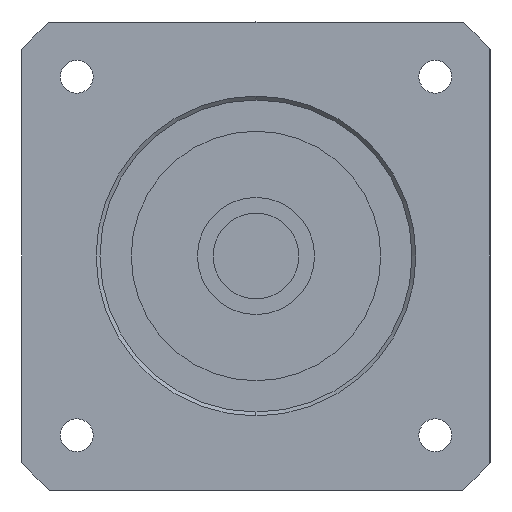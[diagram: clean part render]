
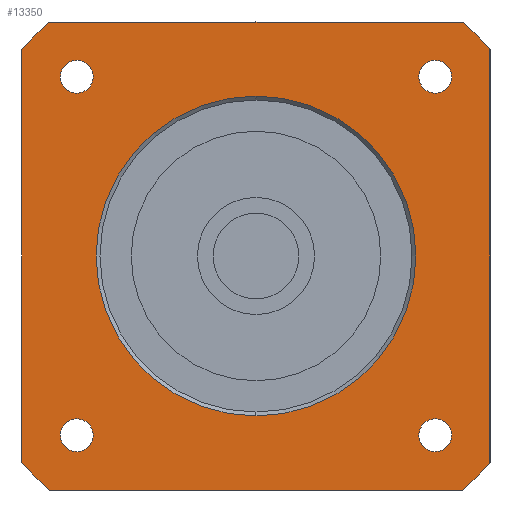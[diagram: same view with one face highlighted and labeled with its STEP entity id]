
A CAD part, left-side view. The second image highlights one B-rep face of the part: STEP entity #13350.
In plain terms, the highlighted planar face has unit normal (-1, 0, 0) as drawn and (0, 0, -1) by its records, which use the part's own axes.
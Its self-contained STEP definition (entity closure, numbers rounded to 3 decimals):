
#8680=CARTESIAN_POINT('',(22.981,25.081,-35.));
#8690=VERTEX_POINT('',#8680);
#8870=CARTESIAN_POINT('',(22.981,20.881,-35.));
#8880=VERTEX_POINT('',#8870);
#8910=CARTESIAN_POINT('',(22.981,22.981,-35.));
#8920=DIRECTION('',(0.,0.,-1.));
#8930=DIRECTION('',(1.,0.,0.));
#8940=AXIS2_PLACEMENT_3D('',#8910,#8920,#8930);
#8950=CIRCLE('',#8940,2.1);
#8960=CARTESIAN_POINT('',(25.081,22.981,-35.));
#8970=VERTEX_POINT('',#8960);
#8980=EDGE_CURVE('',#8970,#8880,#8950,.T.);
#9000=EDGE_CURVE('',#8690,#8970,#8950,.T.);
#9140=CARTESIAN_POINT('',(22.981,-20.881,-35.));
#9150=VERTEX_POINT('',#9140);
#9330=CARTESIAN_POINT('',(22.981,-25.081,-35.));
#9340=VERTEX_POINT('',#9330);
#9370=CARTESIAN_POINT('',(22.981,-22.981,-35.));
#9380=DIRECTION('',(0.,0.,-1.));
#9390=DIRECTION('',(1.,0.,0.));
#9400=AXIS2_PLACEMENT_3D('',#9370,#9380,#9390);
#9410=CIRCLE('',#9400,2.1);
#9420=CARTESIAN_POINT('',(25.081,-22.981,-35.));
#9430=VERTEX_POINT('',#9420);
#9440=EDGE_CURVE('',#9430,#9340,#9410,.T.);
#9460=EDGE_CURVE('',#9150,#9430,#9410,.T.);
#11820=CARTESIAN_POINT('',(0.,-20.5,-35.));
#11830=VERTEX_POINT('',#11820);
#11860=CARTESIAN_POINT('',(0.,0.,-35.));
#11870=DIRECTION('',(0.,0.,1.));
#11880=DIRECTION('',(0.,1.,0.));
#11890=AXIS2_PLACEMENT_3D('',#11860,#11870,#11880);
#11900=CIRCLE('',#11890,20.5);
#11910=CARTESIAN_POINT('',(0.,20.5,-35.));
#11920=VERTEX_POINT('',#11910);
#11930=EDGE_CURVE('',#11830,#11920,#11900,.T.);
#12050=CARTESIAN_POINT('',(30.,30.,-35.));
#12060=DIRECTION('',(0.,0.,1.));
#12070=DIRECTION('',(0.,1.,0.));
#12080=AXIS2_PLACEMENT_3D('',#12050,#12060,#12070);
#12090=PLANE('',#12080);
#12100=CARTESIAN_POINT('',(-22.981,-22.981,-35.));
#12110=DIRECTION('',(0.,0.,-1.));
#12120=DIRECTION('',(1.,0.,0.));
#12130=AXIS2_PLACEMENT_3D('',#12100,#12110,#12120);
#12140=CIRCLE('',#12130,2.1);
#12150=CARTESIAN_POINT('',(-20.881,-22.981,-35.));
#12160=VERTEX_POINT('',#12150);
#12170=CARTESIAN_POINT('',(-22.981,-25.081,-35.));
#12180=VERTEX_POINT('',#12170);
#12190=EDGE_CURVE('',#12160,#12180,#12140,.T.);
#12200=ORIENTED_EDGE('',*,*,#12190,.F.);
#12210=CARTESIAN_POINT('',(-22.981,-20.881,-35.));
#12220=VERTEX_POINT('',#12210);
#12230=EDGE_CURVE('',#12180,#12220,#12140,.T.);
#12240=ORIENTED_EDGE('',*,*,#12230,.F.);
#12250=EDGE_CURVE('',#12220,#12160,#12140,.T.);
#12260=ORIENTED_EDGE('',*,*,#12250,.F.);
#12270=EDGE_LOOP('',(#12260,#12240,#12200));
#12280=FACE_BOUND('',#12270,.T.);
#12290=CARTESIAN_POINT('',(-22.981,22.981,-35.));
#12300=DIRECTION('',(0.,0.,-1.));
#12310=DIRECTION('',(1.,0.,0.));
#12320=AXIS2_PLACEMENT_3D('',#12290,#12300,#12310);
#12330=CIRCLE('',#12320,2.1);
#12340=CARTESIAN_POINT('',(-20.881,22.981,-35.));
#12350=VERTEX_POINT('',#12340);
#12360=CARTESIAN_POINT('',(-22.981,20.881,-35.));
#12370=VERTEX_POINT('',#12360);
#12380=EDGE_CURVE('',#12350,#12370,#12330,.T.);
#12390=ORIENTED_EDGE('',*,*,#12380,.F.);
#12400=CARTESIAN_POINT('',(-22.981,25.081,-35.));
#12410=VERTEX_POINT('',#12400);
#12420=EDGE_CURVE('',#12370,#12410,#12330,.T.);
#12430=ORIENTED_EDGE('',*,*,#12420,.F.);
#12440=EDGE_CURVE('',#12410,#12350,#12330,.T.);
#12450=ORIENTED_EDGE('',*,*,#12440,.F.);
#12460=EDGE_LOOP('',(#12450,#12430,#12390));
#12470=FACE_BOUND('',#12460,.T.);
#12480=ORIENTED_EDGE('',*,*,#8980,.F.);
#12490=EDGE_CURVE('',#8880,#8690,#8950,.T.);
#12500=ORIENTED_EDGE('',*,*,#12490,.F.);
#12510=ORIENTED_EDGE('',*,*,#9000,.F.);
#12520=EDGE_LOOP('',(#12510,#12500,#12480));
#12530=FACE_BOUND('',#12520,.T.);
#12540=ORIENTED_EDGE('',*,*,#9440,.F.);
#12550=EDGE_CURVE('',#9340,#9150,#9410,.T.);
#12560=ORIENTED_EDGE('',*,*,#12550,.F.);
#12570=ORIENTED_EDGE('',*,*,#9460,.F.);
#12580=EDGE_LOOP('',(#12570,#12560,#12540));
#12590=FACE_BOUND('',#12580,.T.);
#12600=EDGE_CURVE('',#11920,#11830,#11900,.T.);
#12610=ORIENTED_EDGE('',*,*,#12600,.T.);
#12620=ORIENTED_EDGE('',*,*,#11930,.T.);
#12630=EDGE_LOOP('',(#12620,#12610));
#12640=FACE_BOUND('',#12630,.T.);
#12650=CARTESIAN_POINT('',(-30.,30.,-35.));
#12660=DIRECTION('',(0.,-1.,0.));
#12670=VECTOR('',#12660,1000.);
#12680=LINE('',#12650,#12670);
#12690=CARTESIAN_POINT('',(-30.,26.458,-35.));
#12700=VERTEX_POINT('',#12690);
#12710=CARTESIAN_POINT('',(-30.,-26.458,-35.));
#12720=VERTEX_POINT('',#12710);
#12730=EDGE_CURVE('',#12700,#12720,#12680,.T.);
#12740=ORIENTED_EDGE('',*,*,#12730,.F.);
#12750=CARTESIAN_POINT('',(0.,0.,
-35.));
#12760=DIRECTION('',(0.,0.,-1.));
#12770=DIRECTION('',(-1.,0.,0.));
#12780=AXIS2_PLACEMENT_3D('',#12750,#12760,#12770);
#12790=CIRCLE('',#12780,40.);
#12800=CARTESIAN_POINT('',(-26.458,-30.,-35.));
#12810=VERTEX_POINT('',#12800);
#12820=EDGE_CURVE('',#12810,#12720,#12790,.T.);
#12830=ORIENTED_EDGE('',*,*,#12820,.T.);
#12840=CARTESIAN_POINT('',(-30.,-30.,-35.));
#12850=DIRECTION('',(1.,0.,0.));
#12860=VECTOR('',#12850,1000.);
#12870=LINE('',#12840,#12860);
#12880=CARTESIAN_POINT('',(26.458,-30.,-35.));
#12890=VERTEX_POINT('',#12880);
#12900=EDGE_CURVE('',#12810,#12890,#12870,.T.);
#12910=ORIENTED_EDGE('',*,*,#12900,.F.);
#12920=CARTESIAN_POINT('',(0.,0.,
-35.));
#12930=DIRECTION('',(0.,0.,-1.));
#12940=DIRECTION('',(-1.,0.,0.));
#12950=AXIS2_PLACEMENT_3D('',#12920,#12930,#12940);
#12960=CIRCLE('',#12950,40.);
#12970=CARTESIAN_POINT('',(30.,-26.458,-35.));
#12980=VERTEX_POINT('',#12970);
#12990=EDGE_CURVE('',#12980,#12890,#12960,.T.);
#13000=ORIENTED_EDGE('',*,*,#12990,.T.);
#13010=CARTESIAN_POINT('',(30.,-30.,-35.));
#13020=DIRECTION('',(0.,1.,0.));
#13030=VECTOR('',#13020,1000.);
#13040=LINE('',#13010,#13030);
#13050=CARTESIAN_POINT('',(30.,26.458,-35.));
#13060=VERTEX_POINT('',#13050);
#13070=EDGE_CURVE('',#12980,#13060,#13040,.T.);
#13080=ORIENTED_EDGE('',*,*,#13070,.F.);
#13090=CARTESIAN_POINT('',(0.,0.,
-35.));
#13100=DIRECTION('',(0.,0.,-1.));
#13110=DIRECTION('',(-1.,0.,0.));
#13120=AXIS2_PLACEMENT_3D('',#13090,#13100,#13110);
#13130=CIRCLE('',#13120,40.);
#13140=CARTESIAN_POINT('',(26.458,30.,-35.));
#13150=VERTEX_POINT('',#13140);
#13160=EDGE_CURVE('',#13150,#13060,#13130,.T.);
#13170=ORIENTED_EDGE('',*,*,#13160,.T.);
#13180=CARTESIAN_POINT('',(30.,30.,-35.));
#13190=DIRECTION('',(-1.,0.,0.));
#13200=VECTOR('',#13190,1000.);
#13210=LINE('',#13180,#13200);
#13220=CARTESIAN_POINT('',(-26.458,30.,-35.));
#13230=VERTEX_POINT('',#13220);
#13240=EDGE_CURVE('',#13150,#13230,#13210,.T.);
#13250=ORIENTED_EDGE('',*,*,#13240,.F.);
#13260=CARTESIAN_POINT('',(0.,0.,
-35.));
#13270=DIRECTION('',(0.,0.,-1.));
#13280=DIRECTION('',(-1.,0.,0.));
#13290=AXIS2_PLACEMENT_3D('',#13260,#13270,#13280);
#13300=CIRCLE('',#13290,40.);
#13310=EDGE_CURVE('',#12700,#13230,#13300,.T.);
#13320=ORIENTED_EDGE('',*,*,#13310,.T.);
#13330=EDGE_LOOP('',(#13320,#13250,#13170,#13080,#13000,#12910,#12830,
#12740));
#13340=FACE_OUTER_BOUND('',#13330,.T.);
#13350=ADVANCED_FACE('',(#12280,#12470,#12530,#12590,#12640,#13340),
#12090,.F.);
